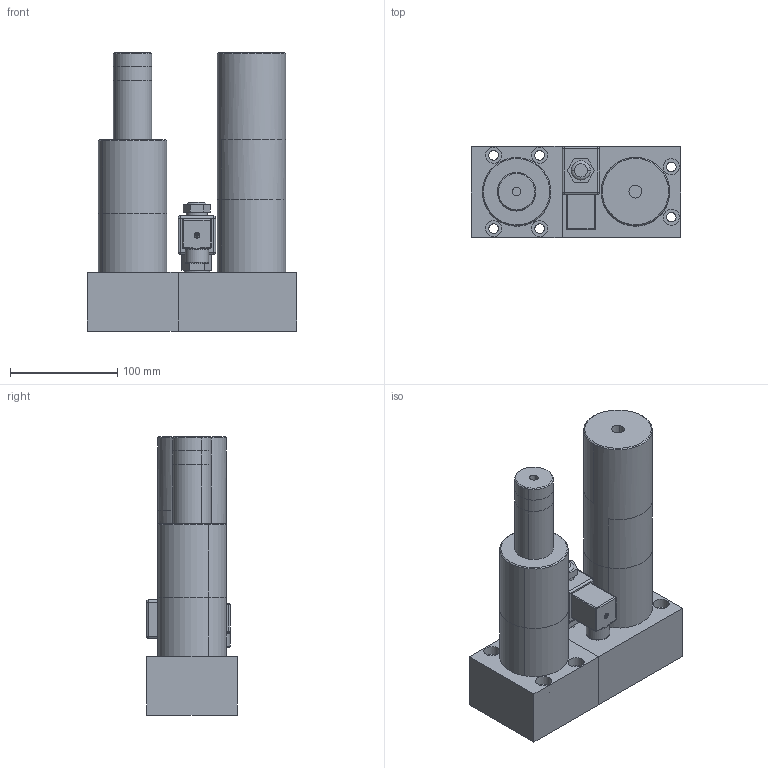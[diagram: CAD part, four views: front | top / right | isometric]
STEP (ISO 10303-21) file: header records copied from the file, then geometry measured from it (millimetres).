
FILE_DESCRIPTION(('CATIA V5 STEP Exchange'),'2;1');
FILE_NAME('W:\LIBRERIA TECAPRES®\DIBUJOS STRACK 2012\TPMC 2015\TPMC 1500\TPMCA 1500x80.stp','2015-11-03T15:21:06+00:00',('none'),('none'),'CATIA Version 5 Release 17 (IN-10)','CATIA V5 STEP AP203','none');
FILE_SCHEMA(('CONFIG_CONTROL_DESIGN'));
Length unit declared in the file: millimetre
Products named in the file (1): TPMCA 1500x80
Bounding box: 196 x 85 x 260 mm (x, y, z)
Volume: 2126354.5 mm3; surface area: 189048.8 mm2
Topology: 6 solids, 6 shells, 170 faces, 387 edges, 230 vertices
Faces by surface type: cylinder 72, plane 67, sphere 12, cone 8, torus 7, revolution 2, bspline 2
Entity records: 4732 total; most frequent: CARTESIAN_POINT 1163, ORIENTED_EDGE 746, DIRECTION 609, EDGE_CURVE 373, AXIS2_PLACEMENT_3D 291, VERTEX_POINT 230, EDGE_LOOP 197, VECTOR 187
